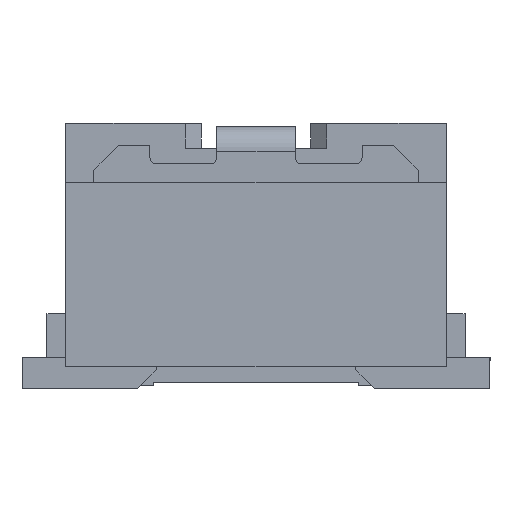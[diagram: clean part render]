
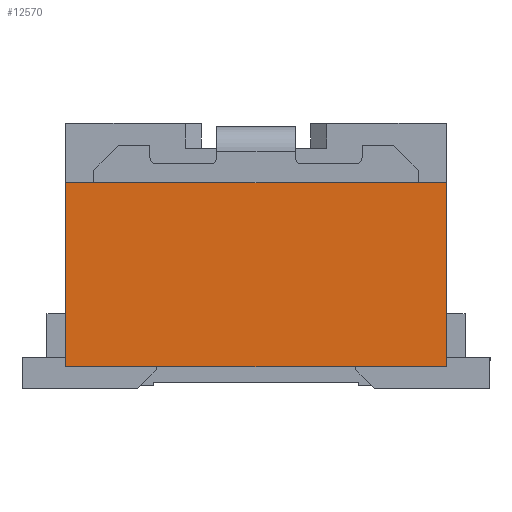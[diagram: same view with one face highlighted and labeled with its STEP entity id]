
A CAD part, left-side view. The second image highlights one B-rep face of the part: STEP entity #12570.
In plain terms, the highlighted planar face has unit normal (-1, 0, 0) as drawn and (1, 0, 0) by its records, which use the part's own axes.
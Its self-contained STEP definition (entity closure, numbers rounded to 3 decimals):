
#9010=CARTESIAN_POINT('',(13.013,-0.5,
2.4));
#9020=VERTEX_POINT('',#9010);
#10020=CARTESIAN_POINT('',(13.013,-0.5,
-3.7));
#10030=VERTEX_POINT('',#10020);
#10060=CARTESIAN_POINT('',(13.013,-0.5,0.));
#10070=DIRECTION('',(0.,0.,-1.));
#10080=VECTOR('',#10070,1.);
#10090=LINE('',#10060,#10080);
#10100=EDGE_CURVE('',#9020,#10030,#10090,.T.);
#11210=CARTESIAN_POINT('',(13.013,-3.45,
-3.7));
#11220=VERTEX_POINT('',#11210);
#11250=CARTESIAN_POINT('',(13.013,0.,-3.7));
#11260=DIRECTION('',(0.,-1.,0.));
#11270=VECTOR('',#11260,1.);
#11280=LINE('',#11250,#11270);
#11290=EDGE_CURVE('',#10030,#11220,#11280,.T.);
#11430=CARTESIAN_POINT('',(13.013,-3.45,
2.4));
#11440=VERTEX_POINT('',#11430);
#11470=CARTESIAN_POINT('',(13.013,-3.45,0.));
#11480=DIRECTION('',(0.,0.,1.));
#11490=VECTOR('',#11480,1.);
#11500=LINE('',#11470,#11490);
#11510=EDGE_CURVE('',#11220,#11440,#11500,.T.);
#11630=CARTESIAN_POINT('',(13.013,0.,2.4));
#11640=DIRECTION('',(0.,1.,0.));
#11650=VECTOR('',#11640,1.);
#11660=LINE('',#11630,#11650);
#11670=EDGE_CURVE('',#11440,#9020,#11660,.T.);
#12460=CARTESIAN_POINT('',(13.013,-0.426,
-3.853));
#12470=DIRECTION('',(1.,0.,0.));
#12480=DIRECTION('',(0.,-1.,0.));
#12490=AXIS2_PLACEMENT_3D('',#12460,#12470,#12480);
#12500=PLANE('',#12490);
#12510=ORIENTED_EDGE('',*,*,#11510,.F.);
#12520=ORIENTED_EDGE('',*,*,#11670,.F.);
#12530=ORIENTED_EDGE('',*,*,#10100,.F.);
#12540=ORIENTED_EDGE('',*,*,#11290,.F.);
#12550=EDGE_LOOP('',(#12540,#12530,#12520,#12510));
#12560=FACE_OUTER_BOUND('',#12550,.T.);
#12570=ADVANCED_FACE('',(#12560),#12500,.T.);
